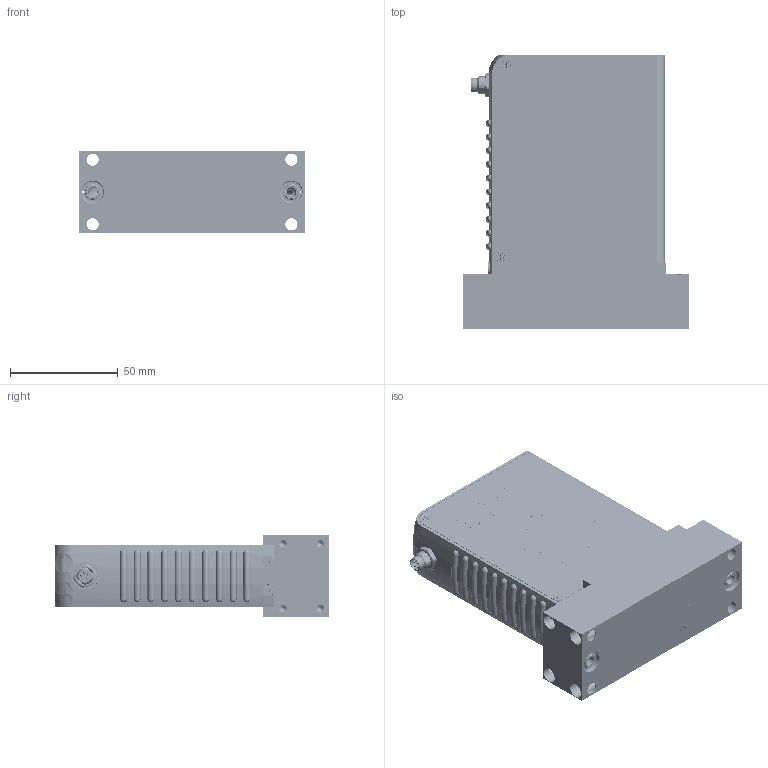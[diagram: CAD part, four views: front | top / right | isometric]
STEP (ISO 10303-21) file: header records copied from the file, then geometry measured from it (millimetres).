
FILE_DESCRIPTION (( 'STEP AP203' ), '1' );
FILE_NAME ('GF100-GF120-GF125-BX-E0.STEP', '2023-04-14T14:58:56', ( '' ), ( '' ), 'SwSTEP 2.0', 'SolidWorks 2020', '' );
FILE_SCHEMA (( 'CONFIG_CONTROL_DESIGN' ));
Products named in the file (1): GF100-GF120-GF125-BX-E0
Bounding box: 104.95 x 127 x 37.6 mm (x, y, z)
Surface area: 91747.3 mm2 (no closed solid volume)
Topology: 0 solids, 155 shells, 7164 faces, 18765 edges, 12297 vertices
Faces by surface type: plane 4092, bspline 1698, cylinder 973, cone 230, torus 140, sphere 31
Entity records: 267172 total; most frequent: CARTESIAN_POINT 101955, ORIENTED_EDGE 37382, DIRECTION 27800, EDGE_CURVE 18695, VERTEX_POINT 12291, VECTOR 12288, LINE 12288, EDGE_LOOP 7933
